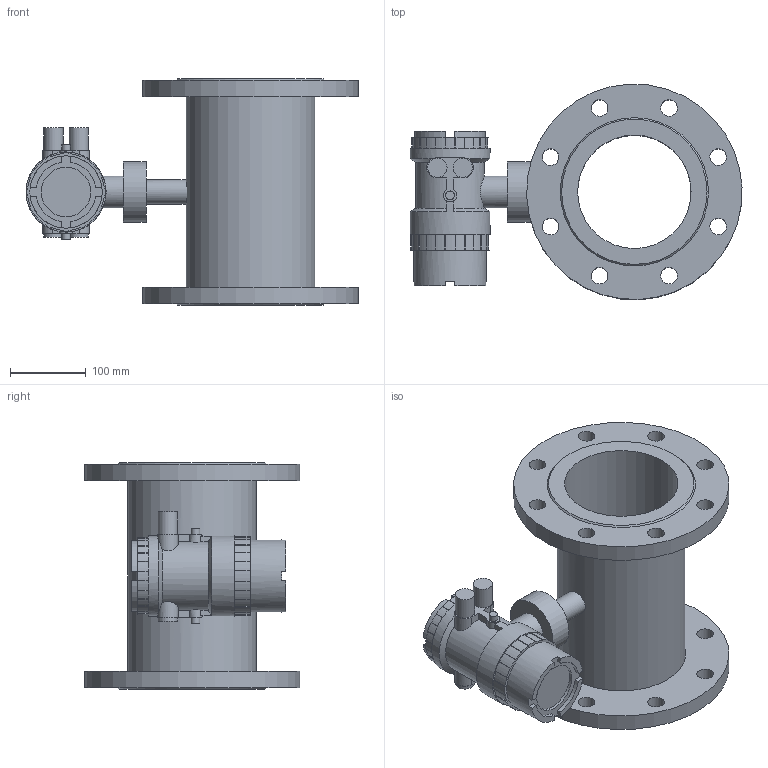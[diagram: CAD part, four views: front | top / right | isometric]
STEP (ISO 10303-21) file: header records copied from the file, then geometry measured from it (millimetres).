
FILE_DESCRIPTION( (''), '2;1');
FILE_NAME( 'QMKC_DN150.step', '2024-12-10T10:39:22+08:00', (''), (''), '', '', '');
FILE_SCHEMA (('AUTOMOTIVE_DESIGN { 1 0 10303 214 3 1 1 1 }'));
Length unit declared in the file: millimetre
Products named in the file (1): QMKC DN150
Bounding box: 439.11 x 284.73 x 300 mm (x, y, z)
Volume: 4974094 mm3; surface area: 623714.9 mm2
Topology: 1 solids, 1 shells, 215 faces, 580 edges, 389 vertices
Faces by surface type: plane 108, cylinder 101, cone 6
Full cylindrical faces by diameter (mm): 11.6 x2, 22 x16, 25.5 x4, 32 x1, 42 x1, 65.5 x1, 80 x1, 95.5 x1, 105.9 x2, 150 x1, 170 x1, 285 x2
Entity records: 6770 total; most frequent: CARTESIAN_POINT 1290, DIRECTION 1156, ORIENTED_EDGE 1070, EDGE_CURVE 535, AXIS2_PLACEMENT_3D 429, VERTEX_POINT 379, EDGE_LOOP 306, LINE 298
